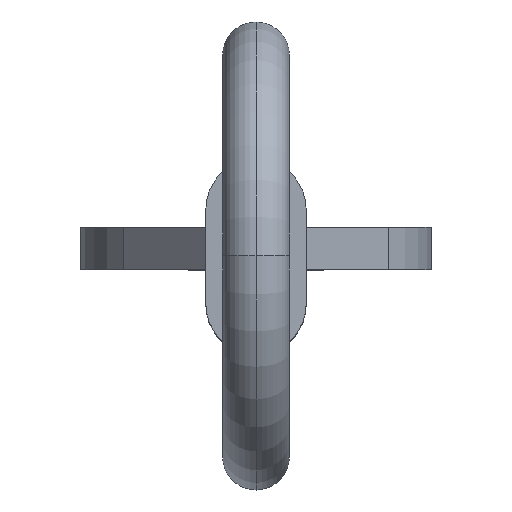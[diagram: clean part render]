
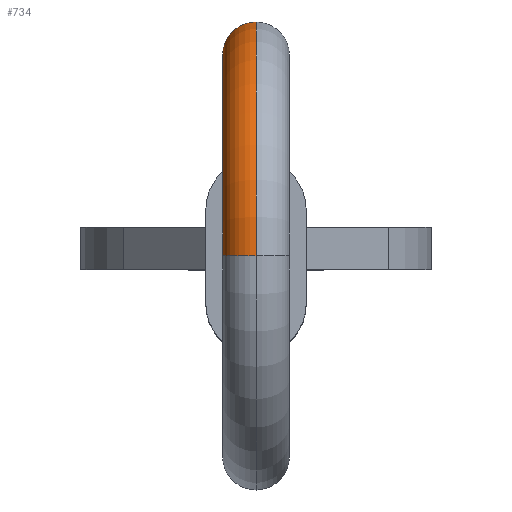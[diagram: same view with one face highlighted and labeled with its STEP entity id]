
A CAD part, top view. The second image highlights one B-rep face of the part: STEP entity #734.
In plain terms, the highlighted toroidal (fillet/blend) face has major radius 4.8 mm and minor radius 0.795 mm.
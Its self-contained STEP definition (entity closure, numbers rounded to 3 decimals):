
#43 = EDGE_LOOP ( 'NONE', ( #543, #83, #341, #128 ) ) ;
#44 = DIRECTION ( 'NONE',  ( 0., 0.667, 0.745 ) ) ;
#45 = VERTEX_POINT ( 'NONE', #608 ) ;
#57 = DIRECTION ( 'NONE',  ( 0., -1., 0. ) ) ;
#83 = ORIENTED_EDGE ( 'NONE', *, *, #399, .T. ) ;
#119 = CARTESIAN_POINT ( 'NONE',  ( 0., -1.133, 137.4 ) ) ;
#123 = DIRECTION ( 'NONE',  ( -1., 0., 0. ) ) ;
#128 = ORIENTED_EDGE ( 'NONE', *, *, #565, .F. ) ;
#145 = AXIS2_PLACEMENT_3D ( 'NONE', #348, #123, #701 ) ;
#166 = CARTESIAN_POINT ( 'NONE',  ( 0., -1.133, 141.405 ) ) ;
#169 = AXIS2_PLACEMENT_3D ( 'NONE', #327, #44, #190 ) ;
#190 = DIRECTION ( 'NONE',  ( 1., 0., 0. ) ) ;
#194 = DIRECTION ( 'NONE',  ( -1., 0., 0. ) ) ;
#198 = EDGE_CURVE ( 'NONE', #587, #45, #299, .T. ) ;
#201 = CARTESIAN_POINT ( 'NONE',  ( 0., -1.133, 142.2 ) ) ;
#280 = EDGE_CURVE ( 'NONE', #347, #583, #885, .T. ) ;
#294 = CARTESIAN_POINT ( 'NONE',  ( 0., -1.133, 137.4 ) ) ;
#299 = CIRCLE ( 'NONE', #169, 0.795 ) ;
#327 = CARTESIAN_POINT ( 'NONE',  ( 0., 2.445, 134.2 ) ) ;
#341 = ORIENTED_EDGE ( 'NONE', *, *, #198, .T. ) ;
#347 = VERTEX_POINT ( 'NONE', #552 ) ;
#348 = CARTESIAN_POINT ( 'NONE',  ( 0., -1.133, 137.4 ) ) ;
#358 = TOROIDAL_SURFACE ( 'NONE', #478, 4.8, 0.795 ) ;
#382 = AXIS2_PLACEMENT_3D ( 'NONE', #201, #57, #868 ) ;
#399 = EDGE_CURVE ( 'NONE', #347, #587, #789, .T. ) ;
#461 = CARTESIAN_POINT ( 'NONE',  ( 0., 3.037, 133.67 ) ) ;
#478 = AXIS2_PLACEMENT_3D ( 'NONE', #119, #194, #490 ) ;
#485 = FACE_OUTER_BOUND ( 'NONE', #43, .T. ) ;
#490 = DIRECTION ( 'NONE',  ( 0., 0., 1. ) ) ;
#543 = ORIENTED_EDGE ( 'NONE', *, *, #280, .F. ) ;
#552 = CARTESIAN_POINT ( 'NONE',  ( 0., -1.133, 142.995 ) ) ;
#565 = EDGE_CURVE ( 'NONE', #583, #45, #896, .T. ) ;
#583 = VERTEX_POINT ( 'NONE', #166 ) ;
#587 = VERTEX_POINT ( 'NONE', #461 ) ;
#589 = DIRECTION ( 'NONE',  ( -1., 0., 0. ) ) ;
#608 = CARTESIAN_POINT ( 'NONE',  ( 0., 1.852, 134.73 ) ) ;
#701 = DIRECTION ( 'NONE',  ( 0., 0., 1. ) ) ;
#734 = ADVANCED_FACE ( 'NONE', ( #485 ), #358, .T. ) ;
#749 = AXIS2_PLACEMENT_3D ( 'NONE', #294, #589, #886 ) ;
#789 = CIRCLE ( 'NONE', #145, 5.595 ) ;
#868 = DIRECTION ( 'NONE',  ( 0., 0., -1. ) ) ;
#885 = CIRCLE ( 'NONE', #382, 0.795 ) ;
#886 = DIRECTION ( 'NONE',  ( 0., 0., 1. ) ) ;
#896 = CIRCLE ( 'NONE', #749, 4.005 ) ;
